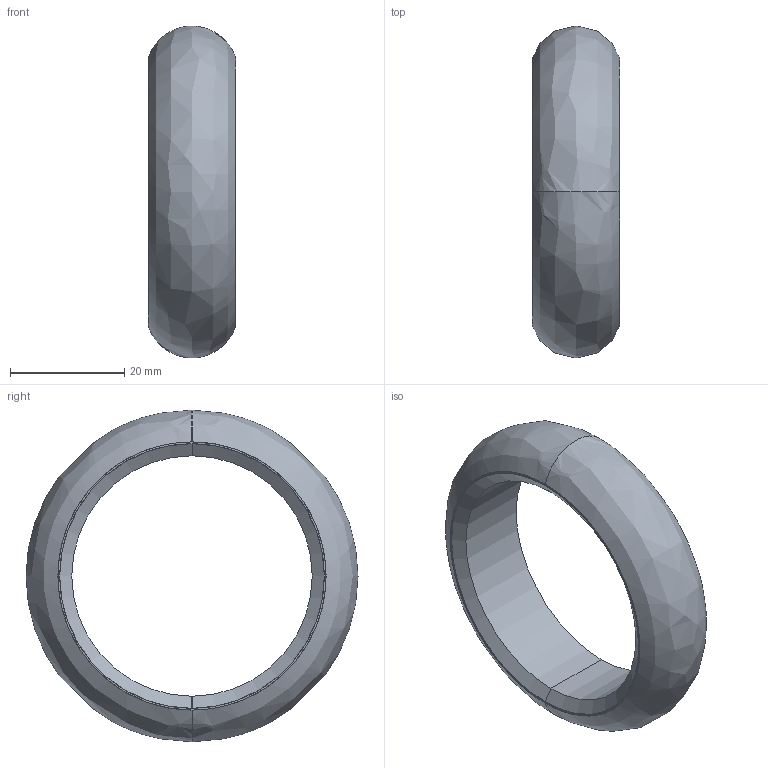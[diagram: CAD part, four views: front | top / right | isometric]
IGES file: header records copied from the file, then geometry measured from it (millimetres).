
Start section: SolidWorks IGES file using analytic representation for surfaces
Global section: file name: C:\Users\AndreBernot\Downloads\K-RACER-L_3D_SW\K-RACER-L_3D_SW\TAM-70145_pneu.IGS; native system: SolidWorks 2015; preprocessor: SolidWorks 2015; author: AndreBernot; date: 170922.151651; units: millimetre
Bounding box: 15.25 x 58 x 57.94 mm (x, y, z)
Surface area: 5866.3 mm2 (no closed solid volume)
Topology: 0 solids, 0 shells, 10 faces, 288 edges, 288 vertices
Faces by surface type: revolution 6, bspline 4
